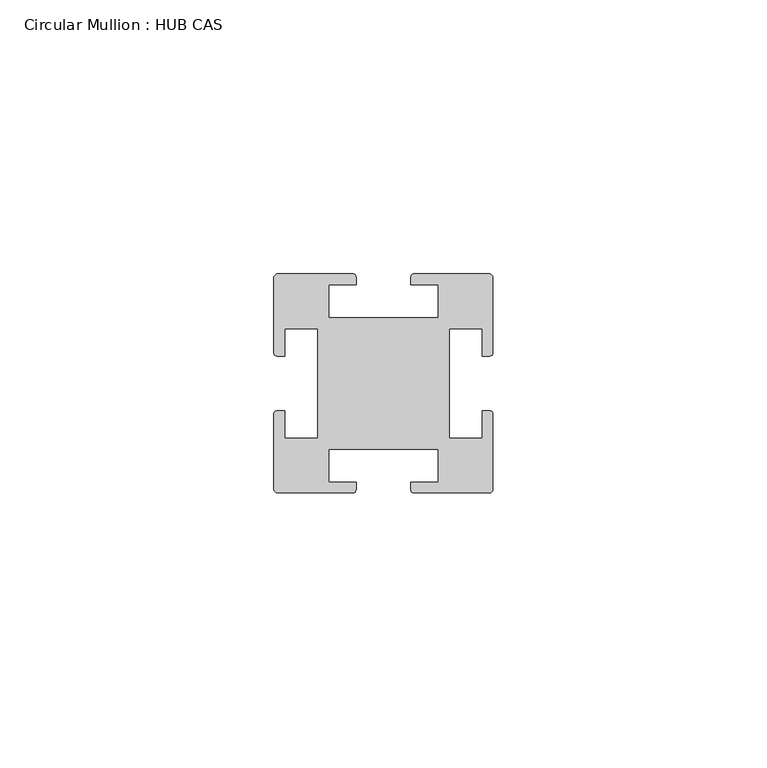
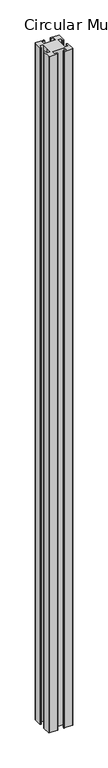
"""IFC4 building model written with IfcOpenShell, lengths in millimetres: member geometry, Circular Mullion : HUB CAS."""

from ifc_helpers import new_model, si_unit, point, frame, frame_2d, origin, place, context, project, spatial, polyline, circle_curve, trimmed, segment, composite_curve, outline, extrude, source, transform, mapped, element, save


def circular_mullion_hub_cas_5b569fee(model_context):
    return source(origin(), model_context, "Body", "SweptSolid", [
        extrude(outline(composite_curve([segment(polyline([(5.601076, 2.0892375), (19.298924, 2.0892375)]), True, "CONTINUOUS"), segment(trimmed(circle_curve(frame_2d((19.298924, 1.3892375)), 0.7), [point((19.298924, 2.0892375))], [point((19.998924, 1.3892375))], False, "CARTESIAN"), True, "CONTINUOUS"), segment(polyline([(19.998924, 1.3892375), (19.998924, -12.3107625)]), True, "CONTINUOUS"), segment(trimmed(circle_curve(frame_2d((19.398924, -12.3107625)), 0.6), [point((19.998924, -12.3107625))], [point((19.398924, -12.9107625))], False, "CARTESIAN"), True, "CONTINUOUS"), segment(polyline([(19.398924, -12.9107625), (17.998924, -12.9107625), (17.998924, -7.9107625), (11.998924, -7.9107625), (11.998924, -17.9107625), (11.998924, -27.9107625), (17.998924, -27.9107625), (17.998924, -22.9107625), (19.398924, -22.9107625)]), True, "CONTINUOUS"), segment(trimmed(circle_curve(frame_2d((19.398924, -23.5107625)), 0.6), [point((19.398924, -22.9107625))], [point((19.998924, -23.5107625))], False, "CARTESIAN"), True, "CONTINUOUS"), segment(polyline([(19.998924, -23.5107625), (19.998924, -37.2107625)]), True, "CONTINUOUS"), segment(trimmed(circle_curve(frame_2d((19.298924, -37.2107625)), 0.7), [point((19.998924, -37.2107625))], [point((19.298924, -37.9107625))], False, "CARTESIAN"), True, "CONTINUOUS"), segment(polyline([(19.298924, -37.9107625), (5.601076, -37.9107625)]), True, "CONTINUOUS"), segment(trimmed(circle_curve(frame_2d((5.601076, -37.3107625)), 0.6), [point((5.601076, -37.9107625))], [point((5.001076, -37.3107625))], False, "CARTESIAN"), True, "CONTINUOUS"), segment(polyline([(5.001076, -37.3107625), (5.001076, -35.910257), (9.998924, -35.910257), (9.998924, -29.9107625), (-9.998924, -29.9107625), (-9.998924, -35.910257), (-5.001076, -35.910257), (-5.001076, -37.3107625)]), True, "CONTINUOUS"), segment(trimmed(circle_curve(frame_2d((-5.601076, -37.3107625)), 0.6), [point((-5.001076, -37.3107625))], [point((-5.601076, -37.9107625))], False, "CARTESIAN"), True, "CONTINUOUS"), segment(polyline([(-5.601076, -37.9107625), (-19.298924, -37.9107625)]), True, "CONTINUOUS"), segment(trimmed(circle_curve(frame_2d((-19.298924, -37.2107625)), 0.7), [point((-19.298924, -37.9107625))], [point((-19.998924, -37.2107625))], False, "CARTESIAN"), True, "CONTINUOUS"), segment(polyline([(-19.998924, -37.2107625), (-19.998924, -23.5107625)]), True, "CONTINUOUS"), segment(trimmed(circle_curve(frame_2d((-19.398924, -23.5107625)), 0.6), [point((-19.998924, -23.5107625))], [point((-19.398924, -22.9107625))], False, "CARTESIAN"), True, "CONTINUOUS"), segment(polyline([(-19.398924, -22.9107625), (-17.998924, -22.9107625), (-17.998924, -27.9107625), (-11.998924, -27.9107625), (-11.998924, -17.9107625), (-11.998924, -7.9107625), (-17.998924, -7.9107625), (-17.998924, -12.9107625), (-19.398924, -12.9107625)]), True, "CONTINUOUS"), segment(trimmed(circle_curve(frame_2d((-19.398924, -12.3107625)), 0.6), [point((-19.398924, -12.9107625))], [point((-19.998924, -12.3107625))], False, "CARTESIAN"), True, "CONTINUOUS"), segment(polyline([(-19.998924, -12.3107625), (-19.998924, 1.3892375)]), True, "CONTINUOUS"), segment(trimmed(circle_curve(frame_2d((-19.298924, 1.3892375)), 0.7), [point((-19.998924, 1.3892375))], [point((-19.298924, 2.0892375))], False, "CARTESIAN"), True, "CONTINUOUS"), segment(polyline([(-19.298924, 2.0892375), (-5.601076, 2.0892375)]), True, "CONTINUOUS"), segment(trimmed(circle_curve(frame_2d((-5.601076, 1.4892375)), 0.6), [point((-5.601076, 2.0892375))], [point((-5.001076, 1.4892375))], False, "CARTESIAN"), True, "CONTINUOUS"), segment(polyline([(-5.001076, 1.4892375), (-5.001076, 0.0887321), (-9.998924, 0.0887321), (-9.998924, -5.9107625), (9.998924, -5.9107625), (9.998924, 0.0887321), (5.001076, 0.0887321), (5.001076, 1.4892375)]), True, "CONTINUOUS"), segment(trimmed(circle_curve(frame_2d((5.601076, 1.4892375)), 0.6), [point((5.001076, 1.4892375))], [point((5.601076, 2.0892375))], False, "CARTESIAN"), True, "CONTINUOUS")], self_intersect=False)), frame((0.0, 0.0, -1190.0), z_axis=(0.0, 0.0, 1.0), x_axis=(1.0, 0.0, 0.0)), (0.0, 0.0, 1.0), 1190.0),
    ])


if __name__ == "__main__":
    model = new_model("IFC4")
    model_context = context("Model", 3, world=origin())
    ifc_project = project(units=[si_unit("LENGTHUNIT", "METRE", prefix="MILLI")], contexts=[model_context])
    site = spatial("IfcSite", under=ifc_project)
    building = spatial("IfcBuilding", under=site)
    placement = place(None, origin())
    circular_mullion_hub_cas_shape = circular_mullion_hub_cas_5b569fee(model_context)
    element("IfcMember", 1, ObjectType="Circular Mullion : HUB CAS", at=placement, inside=building, context=model_context, shape_type="MappedRepresentation", body=[
        mapped(circular_mullion_hub_cas_shape, transform((0.0, 0.0, 0.0), x_axis=(1.0, 0.0, 0.0), y_axis=(0.0, 1.0, 0.0), z_axis=(0.0, 0.0, 1.0))),
    ])
    save(model, "model.ifc")
